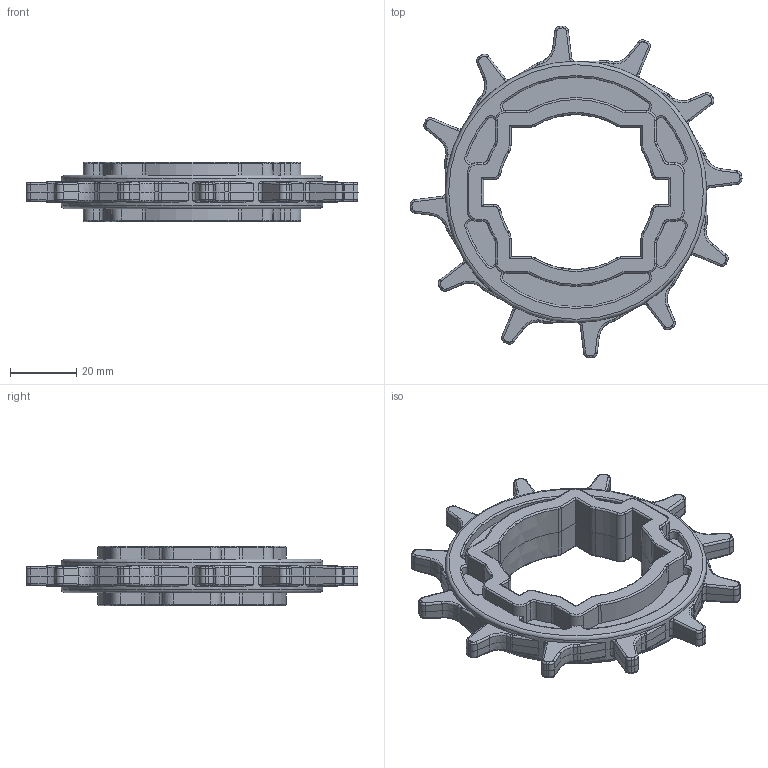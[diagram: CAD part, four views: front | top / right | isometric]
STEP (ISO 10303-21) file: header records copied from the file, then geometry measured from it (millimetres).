
FILE_DESCRIPTION(/* description */ (''),/* implementation_level */ '2;1');
FILE_NAME(/* name */ 'HS-500-12T.stp',/* time_stamp */ '2021-07-21T09:37:48+08:00',/* author */ (''),/* organization */ (''),/* preprocessor_version */ 'ST-DEVELOPER v15',/* originating_system */ 'SIEMENS PLM Software NX 8.5',/* authorisation */ '');
FILE_SCHEMA (('AP203_CONFIGURATION_CONTROLLED_3D_DESIGN_OF_MECHANICAL_PARTS_AND_ASSEMBLIES_MIM_LF { 1 0 10303 403 2 1 2}'));
Length unit declared in the file: millimetre
Products named in the file (1): Admi2124168Dkj6l
Bounding box: 100.13 x 100.13 x 17.94 mm (x, y, z)
Volume: 37642.3 mm3; surface area: 17407.3 mm2
Topology: 1 solids, 1 shells, 900 faces, 2405 edges, 1509 vertices
Faces by surface type: cylinder 280, plane 176, bspline 176, cone 158, torus 110
Entity records: 35099 total; most frequent: CARTESIAN_POINT 15513, ORIENTED_EDGE 4800, DIRECTION 3212, EDGE_CURVE 2400, VERTEX_POINT 1508, AXIS2_PLACEMENT_3D 1368, B_SPLINE_CURVE_WITH_KNOTS 1157, EDGE_LOOP 908
